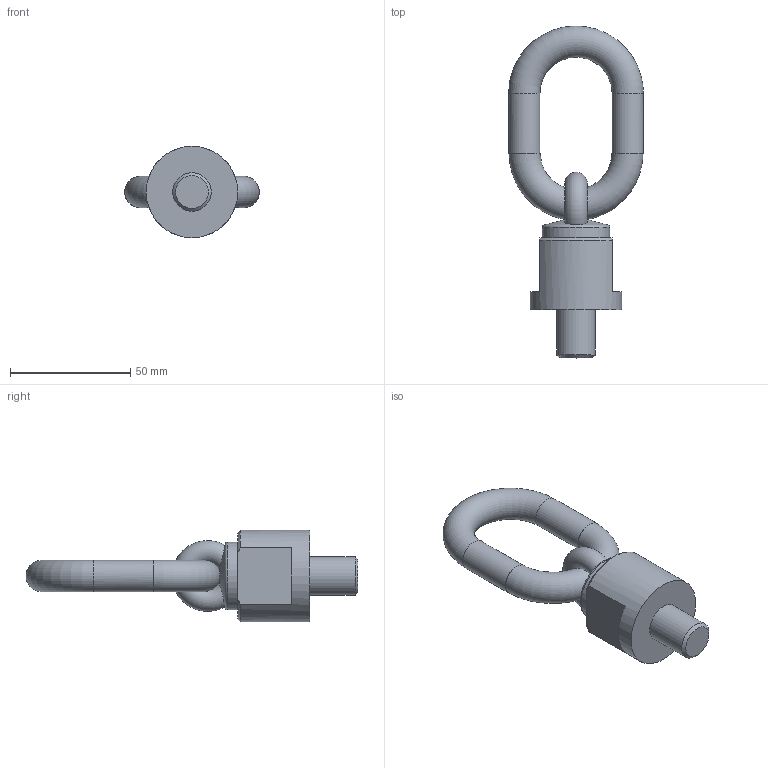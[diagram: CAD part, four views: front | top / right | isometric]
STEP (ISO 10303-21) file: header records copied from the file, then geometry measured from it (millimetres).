
FILE_DESCRIPTION( ( 'STEP AP203' ), '1' );
FILE_NAME( 'p:/temp/worker_22/temp/app_44_0201906261453274140643110e898ce_000000_00_00_000000/format_4/C800X0101420.stp', '2019-06-26T12:53:30', ( '' ), ( '' ), ' ', 'PARTsolutions', ' ' );
FILE_SCHEMA( ( 'CONFIG_CONTROL_DESIGN' ) );
Length unit declared in the file: millimetre
Products named in the file (1): _C800X0101420
Bounding box: 56 x 137.99 x 38 mm (x, y, z)
Volume: 66276.3 mm3; surface area: 15315.1 mm2
Topology: 1 solids, 1 shells, 27 faces, 65 edges, 40 vertices
Faces by surface type: plane 13, torus 5, cylinder 5, cone 4
Full cylindrical faces by diameter (mm): 13 x2, 16 x1, 28.2 x1, 38 x1
Entity records: 1036 total; most frequent: CARTESIAN_POINT 455, DIRECTION 114, ORIENTED_EDGE 94, AXIS2_PLACEMENT_3D 53, EDGE_CURVE 47, EDGE_LOOP 40, FACE_OUTER_BOUND 36, VERTEX_POINT 34
